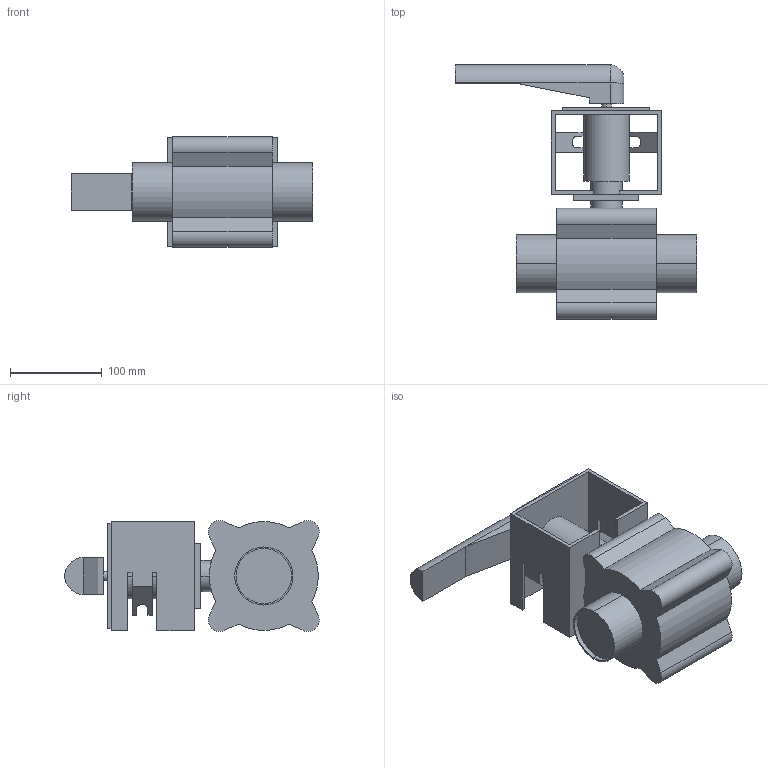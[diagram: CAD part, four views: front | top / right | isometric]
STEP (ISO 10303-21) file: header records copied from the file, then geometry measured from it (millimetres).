
FILE_DESCRIPTION(('Creo Elements/Direct Modeling STEP Export'),'2;1');
FILE_NAME('BLV1-2.5T-HL-12S.stp','2019-05-10T 8:14:22',(''),(''),'Creo Elements/Direct Modeling STEP processor for AP214 (Solid Model)','Creo Elements/Direct Modeling 19.0F 14-Feb-2017 (C) Parametric Technology GmbH','');
FILE_SCHEMA(('AUTOMOTIVE_DESIGN { 1 0 10303 214 1 1 1 1 }'));
Length unit declared in the file: millimetre
Products named in the file (2): BLV1-2.5T-HL-12S
Assembly tree (1 placements, depth 2):
  BLV1-2.5T-HL-12S
    BLV1-2.5T-HL-12S
Bounding box: 263.5 x 277.84 x 121.07 mm (x, y, z)
Volume: 2278974.7 mm3; surface area: 233465.9 mm2
Topology: 1 solids, 1 shells, 108 faces, 288 edges, 190 vertices
Faces by surface type: plane 76, cylinder 31, torus 1
Entity records: 3316 total; most frequent: CARTESIAN_POINT 611, ORIENTED_EDGE 576, DIRECTION 517, EDGE_CURVE 288, VECTOR 223, LINE 223, VERTEX_POINT 190, AXIS2_PLACEMENT_3D 147
